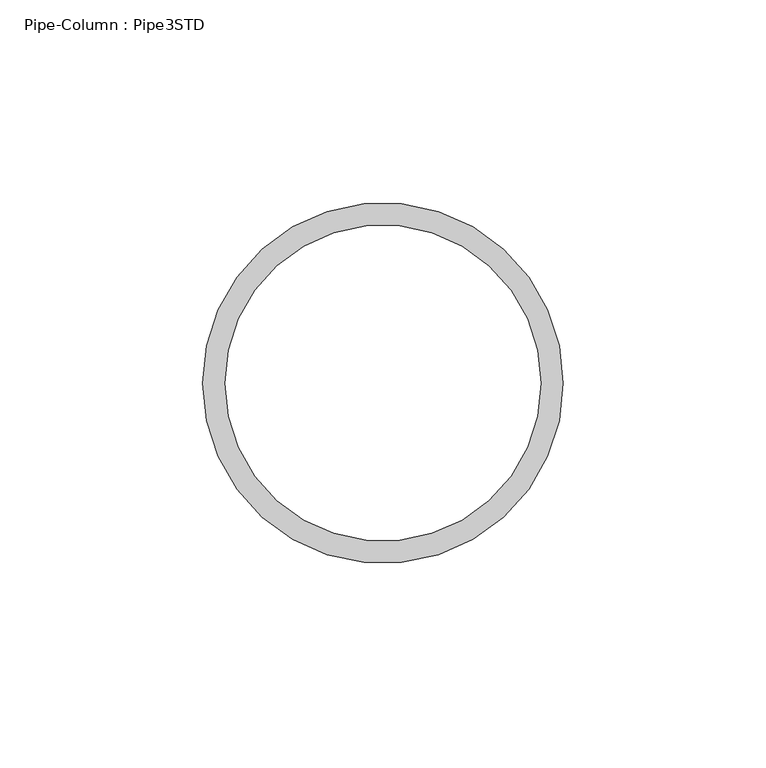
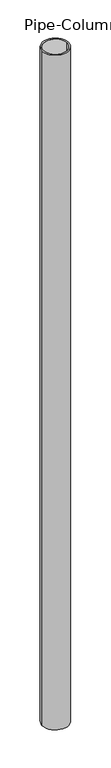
"""IFC4 building model written with IfcOpenShell, lengths in millimetres: column geometry, Pipe-Column : Pipe3STD."""

from ifc_helpers import new_model, si_unit, point, frame, origin, origin_2d, place, context, project, spatial, circle_curve, trimmed, segment, composite_curve, outline, extrude, source, transform, mapped, element, save


def pipe_column_pipe3std_a24632ea(model_context):
    return source(origin(), model_context, "Body", "SweptSolid", [
        extrude(outline(composite_curve([segment(trimmed(circle_curve(origin_2d(), 44.45), [point((-44.45, 0.0))], [point((44.45, 0.0))], False, "CARTESIAN"), True, "CONTINUOUS"), segment(trimmed(circle_curve(origin_2d(), 44.45), [point((44.45, 0.0))], [point((-44.45, 0.0))], False, "CARTESIAN"), True, "CONTINUOUS")], self_intersect=False), holes=[composite_curve([segment(trimmed(circle_curve(origin_2d(), 38.9636), [point((-38.9636, 0.0))], [point((38.9636, 0.0))], True, "CARTESIAN"), True, "CONTINUOUS"), segment(trimmed(circle_curve(origin_2d(), 38.9636), [point((38.9636, 0.0))], [point((-38.9636, 0.0))], True, "CARTESIAN"), True, "CONTINUOUS")], self_intersect=False)]), frame((0.0, 0.0, -2368.55), z_axis=(0.0, 0.0, 1.0), x_axis=(1.0, 0.0, 0.0)), (0.0, 0.0, 1.0), 2414.7859375),
    ])


if __name__ == "__main__":
    model = new_model("IFC4")
    model_context = context("Model", 3, world=origin())
    ifc_project = project(units=[si_unit("LENGTHUNIT", "METRE", prefix="MILLI")], contexts=[model_context])
    site = spatial("IfcSite", under=ifc_project)
    building = spatial("IfcBuilding", under=site)
    placement = place(None, origin())
    pipe_column_pipe3std_shape = pipe_column_pipe3std_a24632ea(model_context)
    element("IfcColumn", 1, ObjectType="Pipe-Column : Pipe3STD", at=placement, inside=building, context=model_context, shape_type="MappedRepresentation", body=[
        mapped(pipe_column_pipe3std_shape, transform((0.0, 0.0, 0.0), x_axis=(1.0, 0.0, 0.0), y_axis=(0.0, 1.0, 0.0), z_axis=(0.0, 0.0, 1.0))),
    ])
    save(model, "model.ifc")
